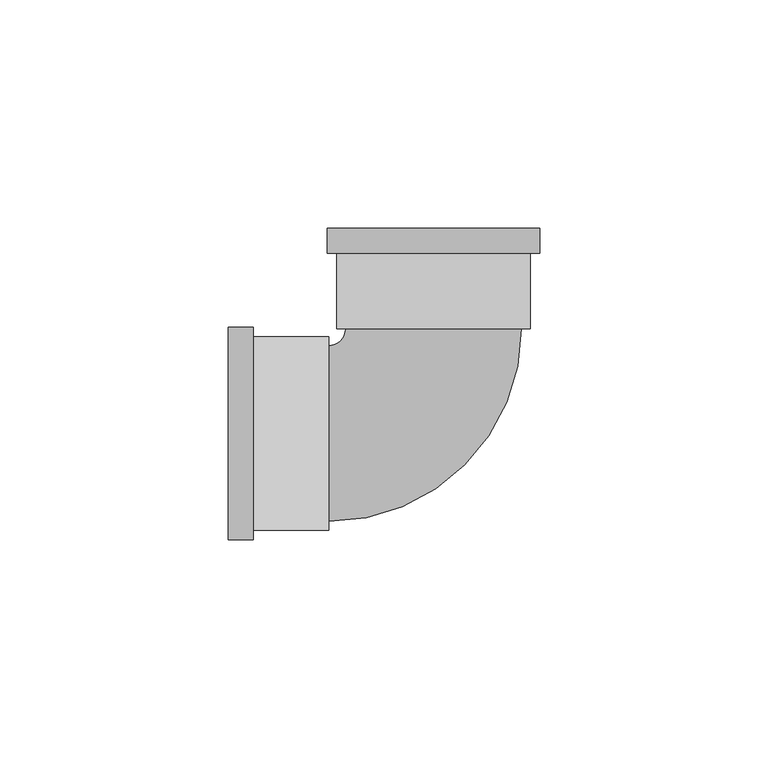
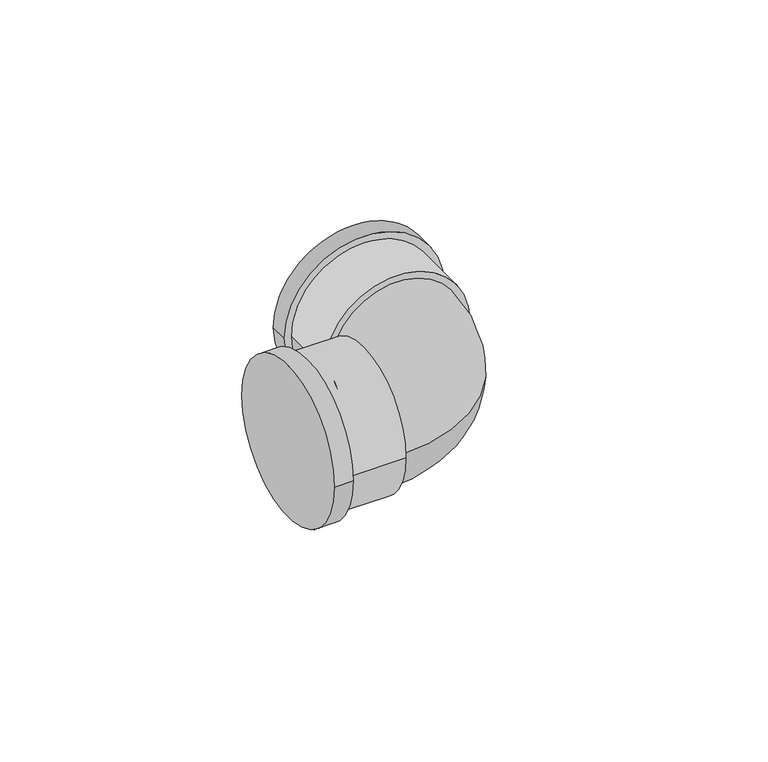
"""IFC4 building model written with IfcOpenShell, lengths in millimetres: pipe fitting geometry, Cotovelo - PVC - CW : Padrão."""

from ifc_helpers import new_model, si_unit, point, frame, origin, place, context, project, spatial, circle_curve, ellipse_curve, trimmed, source, transform, mapped, element, save
from ifc_brep_helpers import plane_surface, cylinder_surface, revolved_surface, advanced_brep


def pipe_fitting_d8987a17(model_context):
    return source(origin(), model_context, "Body", "AdvancedBrep", [
        advanced_brep(
        [(-45.0003495, -23.2925, 0.0), (-45.0003495, 23.2925, 0.0), (-39.5003495, -23.2925, 0.0), (-39.5003495, 23.2925, 0.0), (-39.5003495, -21.175, 0.0), (-39.5003495, 21.175, 0.0), (-23.0003495, 21.175, 0.0), (-23.0003495, -21.175, 0.0), (-23.0003495, -19.25, 0.0), (-23.0003495, 19.25, 0.0), (-19.2503495, 23.000057, 0.0), (19.2496505, 23.0006421, 0.0), (21.1746505, 23.0006713, 0.0), (-21.1753495, 23.0000277, 0.0), (-23.2931838, 44.9999956, 0.0), (23.2918161, 45.0007035, 0.0), (21.1743997, 39.5006713, 0.0), (-21.1756003, 39.5000277, 0.0), (-23.2931003, 39.4999956, 0.0), (23.2918997, 39.5007035, 0.0)],
        [
            (0, 1, circle_curve(frame((-45.0003495, 0.0, 0.0), z_axis=(-1.0, 0.0, 0.0), x_axis=(0.0, 1.0, 0.0)), 23.2925)),
            (1, 0, circle_curve(frame((-45.0003495, 0.0, 0.0), z_axis=(-1.0, 0.0, 0.0), x_axis=(0.0, 1.0, 0.0)), 23.2925)),
            (2, 3, circle_curve(frame((-39.5003495, 0.0, 0.0), z_axis=(1.0, 0.0, 0.0), x_axis=(0.0, 1.0, 0.0)), 23.2925)),
            (3, 2, circle_curve(frame((-39.5003495, 0.0, 0.0), z_axis=(1.0, 0.0, 0.0), x_axis=(0.0, 1.0, 0.0)), 23.2925)),
            (4, 5, circle_curve(frame((-39.5003495, 0.0, 0.0), z_axis=(-1.0, 0.0, 0.0), x_axis=(0.0, -1.0, 0.0)), 21.175)),
            (5, 4, circle_curve(frame((-39.5003495, 0.0, 0.0), z_axis=(-1.0, 0.0, 0.0), x_axis=(0.0, -1.0, 0.0)), 21.175)),
            (0, 2),
            (3, 1),
            (6, 7, circle_curve(frame((-23.0003495, 0.0, 0.0), z_axis=(1.0, 0.0, 0.0), x_axis=(0.0, -1.0, 0.0)), 21.175)),
            (7, 6, circle_curve(frame((-23.0003495, 0.0, 0.0), z_axis=(1.0, 0.0, 0.0), x_axis=(0.0, -1.0, 0.0)), 21.175)),
            (8, 9, circle_curve(frame((-23.0003495, 0.0, 0.0), z_axis=(-1.0, 0.0, 0.0), x_axis=(0.0, 1.0, 0.0)), 19.25)),
            (9, 8, circle_curve(frame((-23.0003495, 0.0, 0.0), z_axis=(-1.0, 0.0, 0.0), x_axis=(0.0, 1.0, 0.0)), 19.25)),
            (6, 5),
            (4, 7),
            (10, 9, circle_curve(frame((-23.0003495, 23.0, 0.0), z_axis=(0.0, 0.0, -1.0), x_axis=(0.0, -1.0, 0.0)), 3.75)),
            (8, 11, circle_curve(frame((-23.0003495, 23.0, 0.0), z_axis=(0.0, 0.0, 1.0), x_axis=(0.0, -1.0, 0.0)), 42.25)),
            (11, 10, circle_curve(frame((-0.0003495, 23.0003495, 0.0), z_axis=(1.5196523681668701e-05, -0.9999999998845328, 0.0), x_axis=(-0.9999999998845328, -1.5196523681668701e-05, 0.0)), 19.25)),
            (10, 11, circle_curve(frame((-0.0003495, 23.0003495, 0.0), z_axis=(1.5196523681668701e-05, -0.9999999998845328, 0.0), x_axis=(-0.9999999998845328, -1.5196523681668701e-05, 0.0)), 19.25)),
            (12, 13, circle_curve(frame((-0.0003495, 23.0003495, 0.0), z_axis=(1.5196524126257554e-05, -0.9999999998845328, 0.0), x_axis=(-0.9999999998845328, -1.5196524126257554e-05, 0.0)), 21.175)),
            (13, 12, circle_curve(frame((-0.0003495, 23.0003495, 0.0), z_axis=(1.5196524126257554e-05, -0.9999999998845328, 0.0), x_axis=(-0.9999999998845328, -1.5196524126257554e-05, 0.0)), 21.175)),
            (14, 15, circle_curve(frame((-0.0006838, 45.0003495, 0.0), z_axis=(-1.5196523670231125e-05, 0.9999999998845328, 0.0), x_axis=(0.9999999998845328, 1.5196523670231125e-05, 0.0)), 23.2925)),
            (15, 14, circle_curve(frame((-0.0006838, 45.0003495, 0.0), z_axis=(-1.5196523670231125e-05, 0.9999999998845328, 0.0), x_axis=(0.9999999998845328, 1.5196523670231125e-05, 0.0)), 23.2925)),
            (12, 16),
            (16, 17, circle_curve(frame((-0.0006003, 39.5003495, 0.0), z_axis=(1.5196524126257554e-05, -0.9999999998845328, 0.0), x_axis=(-0.9999999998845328, -1.5196524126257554e-05, 0.0)), 21.175)),
            (17, 13),
            (17, 16, circle_curve(frame((-0.0006003, 39.5003495, 0.0), z_axis=(1.5196524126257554e-05, -0.9999999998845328, 0.0), x_axis=(-0.9999999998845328, -1.5196524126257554e-05, 0.0)), 21.175)),
            (18, 19, circle_curve(frame((-0.0006003, 39.5003495, 0.0), z_axis=(1.5196523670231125e-05, -0.9999999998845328, 0.0), x_axis=(0.9999999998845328, 1.5196523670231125e-05, 0.0)), 23.2925)),
            (19, 18, circle_curve(frame((-0.0006003, 39.5003495, 0.0), z_axis=(1.5196523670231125e-05, -0.9999999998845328, 0.0), x_axis=(0.9999999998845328, 1.5196523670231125e-05, 0.0)), 23.2925)),
            (14, 18),
            (19, 15),
        ],
        [
            plane_surface(frame((-45.0003495, 0.0, 0.0), z_axis=(-1.0, 0.0, 0.0), x_axis=(0.0, 0.0, 1.0))),
            plane_surface(frame((-39.5003495, 0.0, 0.0), z_axis=(1.0, 0.0, 0.0), x_axis=(0.0, 0.0, 1.0))),
            cylinder_surface(frame((-45.0003495, 0.0, 0.0), z_axis=(-1.0, 0.0, 0.0), x_axis=(0.0, 1.0, 0.0)), 23.2925),
            plane_surface(frame((-23.0003495, 0.0, 0.0), z_axis=(1.0, 0.0, 0.0), x_axis=(0.0, 0.0, 1.0))),
            cylinder_surface(frame((-23.0003495, 0.0, 0.0), z_axis=(1.0, 0.0, 0.0), x_axis=(0.0, -1.0, 0.0)), 21.175),
            revolved_surface(trimmed(ellipse_curve(frame((-23.0003495, 0.0, 0.0), z_axis=(-1.0, 0.0, 0.0), x_axis=(0.0, 1.0, 0.0)), 19.25, 19.25), [point((-23.0003495, -19.25, 0.0))], [point((-23.0003495, 19.25, 0.0))], True, "CARTESIAN"), (-23.0003495, 23.0, 0.0), (0.0, 0.0, 1.0)),
            revolved_surface(trimmed(ellipse_curve(frame((-23.0003495, 0.0, 0.0), z_axis=(-1.0, 0.0, 0.0), x_axis=(0.0, 1.0, 0.0)), 19.25, 19.25), [point((-23.0003495, 19.25, 0.0))], [point((-23.0003495, -19.25, 0.0))], True, "CARTESIAN"), (-23.0003495, 23.0, 0.0), (0.0, 0.0, 1.0)),
            plane_surface(frame((-0.0003495, 23.0003495, 0.0), z_axis=(1.5196524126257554e-05, -0.9999999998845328, 0.0), x_axis=(0.0, 0.0, 1.0))),
            plane_surface(frame((-0.0006838, 45.0003495, 0.0), z_axis=(-1.5196524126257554e-05, 0.9999999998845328, 0.0), x_axis=(0.0, 0.0, 1.0))),
            cylinder_surface(frame((-0.0003495, 23.0003495, 0.0), z_axis=(1.5196524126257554e-05, -0.9999999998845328, 0.0), x_axis=(-0.9999999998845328, -1.5196524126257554e-05, 0.0)), 21.175),
            plane_surface(frame((-0.0006003, 39.5003495, 0.0), z_axis=(1.5196523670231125e-05, -0.9999999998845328, 0.0), x_axis=(0.0, 0.0, 1.0))),
            cylinder_surface(frame((-0.0006838, 45.0003495, 0.0), z_axis=(-1.5196523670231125e-05, 0.9999999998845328, 0.0), x_axis=(0.9999999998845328, 1.5196523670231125e-05, 0.0)), 23.2925),
        ],
        [
            (0, [[1, 2]]),
            (1, [[3, 4], [5, 6]]),
            (2, [[-1, 7, -4, 8]]),
            (2, [[-2, -8, -3, -7]]),
            (3, [[9, 10], [11, 12]]),
            (4, [[-9, 13, -5, 14]]),
            (4, [[-10, -14, -6, -13]]),
            (5, [[15, -11, 16, 17]]),
            (6, [[-15, 18, -16, -12]]),
            (7, [[19, 20], [-17, -18]]),
            (8, [[21, 22]]),
            (9, [[-19, 23, 24, 25]]),
            (9, [[-20, -25, 26, -23]]),
            (10, [[27, 28], [-24, -26]]),
            (11, [[-21, 29, -28, 30]]),
            (11, [[-22, -30, -27, -29]]),
        ],
    ),
    ])


if __name__ == "__main__":
    model = new_model("IFC4")
    model_context = context("Model", 3, world=origin())
    ifc_project = project(units=[si_unit("LENGTHUNIT", "METRE", prefix="MILLI")], contexts=[model_context])
    site = spatial("IfcSite", under=ifc_project)
    building = spatial("IfcBuilding", under=site)
    placement = place(None, origin())
    pipe_fitting_shape = pipe_fitting_d8987a17(model_context)
    element("IfcPipeFitting", 1, ObjectType="Cotovelo - PVC - CW : Padrão", at=placement, inside=building, context=model_context, shape_type="MappedRepresentation", body=[
        mapped(pipe_fitting_shape, transform((0.0, 0.0, 0.0), x_axis=(1.0, 0.0, 0.0), y_axis=(0.0, 1.0, 0.0), z_axis=(0.0, 0.0, 1.0))),
    ])
    save(model, "model.ifc")
